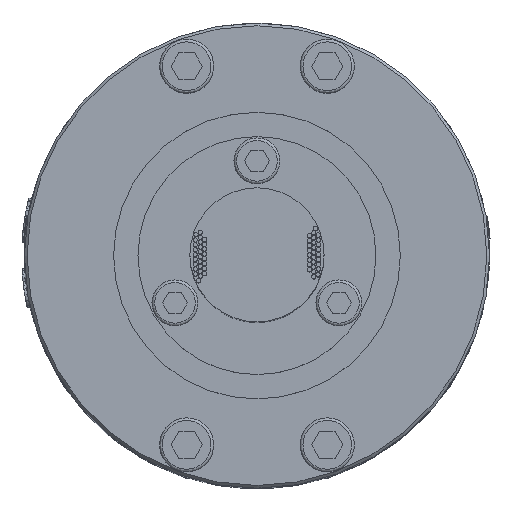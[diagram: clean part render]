
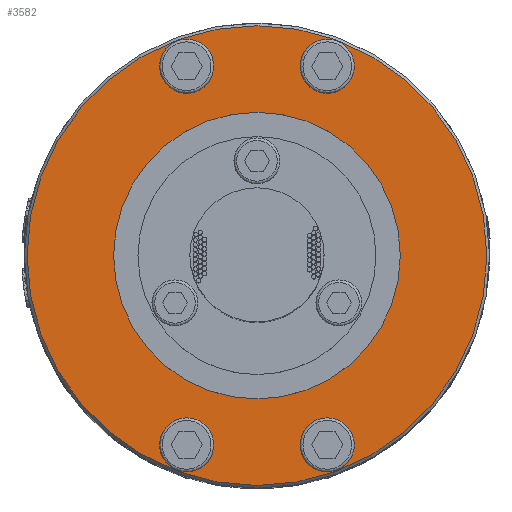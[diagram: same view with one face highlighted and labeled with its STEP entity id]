
A CAD part, top view. The second image highlights one B-rep face of the part: STEP entity #3582.
In plain terms, the highlighted planar face has unit normal (0, 0, 1).
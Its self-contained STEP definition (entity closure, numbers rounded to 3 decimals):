
#700=FACE_BOUND('',#7281,.T.);
#701=FACE_BOUND('',#7282,.T.);
#702=FACE_BOUND('',#7283,.T.);
#703=FACE_BOUND('',#7284,.T.);
#704=FACE_BOUND('',#7285,.T.);
#705=FACE_BOUND('',#7286,.T.);
#1222=CIRCLE('',#27761,5.);
#1223=CIRCLE('',#27762,5.);
#1224=CIRCLE('',#27763,5.);
#1225=CIRCLE('',#27764,5.);
#1226=CIRCLE('',#27765,26.5);
#1227=CIRCLE('',#27766,42.5);
#3582=ADVANCED_FACE('',(#700,#701,#702,#703,#704,#705),#4252,.T.);
#4252=PLANE('',#27767);
#7281=EDGE_LOOP('',(#16349));
#7282=EDGE_LOOP('',(#16350));
#7283=EDGE_LOOP('',(#16351));
#7284=EDGE_LOOP('',(#16352));
#7285=EDGE_LOOP('',(#16353));
#7286=EDGE_LOOP('',(#16354));
#16349=ORIENTED_EDGE('',*,*,#23098,.F.);
#16350=ORIENTED_EDGE('',*,*,#23099,.F.);
#16351=ORIENTED_EDGE('',*,*,#23100,.F.);
#16352=ORIENTED_EDGE('',*,*,#23101,.F.);
#16353=ORIENTED_EDGE('',*,*,#23102,.T.);
#16354=ORIENTED_EDGE('',*,*,#23103,.T.);
#19385=VERTEX_POINT('',#54978);
#19386=VERTEX_POINT('',#54980);
#19387=VERTEX_POINT('',#54982);
#19388=VERTEX_POINT('',#54984);
#19389=VERTEX_POINT('',#54986);
#19390=VERTEX_POINT('',#54988);
#23098=EDGE_CURVE('',#19385,#19385,#1222,.T.);
#23099=EDGE_CURVE('',#19386,#19386,#1223,.T.);
#23100=EDGE_CURVE('',#19387,#19387,#1224,.T.);
#23101=EDGE_CURVE('',#19388,#19388,#1225,.T.);
#23102=EDGE_CURVE('',#19389,#19389,#1226,.T.);
#23103=EDGE_CURVE('',#19390,#19390,#1227,.T.);
#27761=AXIS2_PLACEMENT_3D('',#54977,#31068,#31069);
#27762=AXIS2_PLACEMENT_3D('',#54979,#31070,#31071);
#27763=AXIS2_PLACEMENT_3D('',#54981,#31072,#31073);
#27764=AXIS2_PLACEMENT_3D('',#54983,#31074,#31075);
#27765=AXIS2_PLACEMENT_3D('',#54985,#31076,#31077);
#27766=AXIS2_PLACEMENT_3D('',#54987,#31078,#31079);
#27767=AXIS2_PLACEMENT_3D('',#54989,#31080,#31081);
#31068=DIRECTION('',(0.,0.,1.));
#31069=DIRECTION('',(-1.,0.,0.));
#31070=DIRECTION('',(0.,0.,1.));
#31071=DIRECTION('',(-1.,0.,0.));
#31072=DIRECTION('',(0.,0.,1.));
#31073=DIRECTION('',(-1.,0.,0.));
#31074=DIRECTION('',(0.,0.,1.));
#31075=DIRECTION('',(-1.,0.,0.));
#31076=DIRECTION('',(0.,0.,-1.));
#31077=DIRECTION('',(1.,0.,0.));
#31078=DIRECTION('',(0.,0.,1.));
#31079=DIRECTION('',(1.,0.,0.));
#31080=DIRECTION('',(0.,0.,1.));
#31081=DIRECTION('',(1.,0.,0.));
#54977=CARTESIAN_POINT('',(13.,35.,111.));
#54978=CARTESIAN_POINT('',(8.,35.,111.));
#54979=CARTESIAN_POINT('',(-13.,35.,111.));
#54980=CARTESIAN_POINT('',(-18.,35.,111.));
#54981=CARTESIAN_POINT('',(-13.,-35.,111.));
#54982=CARTESIAN_POINT('',(-18.,-35.,111.));
#54983=CARTESIAN_POINT('',(13.,-35.,111.));
#54984=CARTESIAN_POINT('',(8.,-35.,111.));
#54985=CARTESIAN_POINT('',(0.,0.,111.));
#54986=CARTESIAN_POINT('',(26.5,0.,111.));
#54987=CARTESIAN_POINT('',(0.,0.,111.));
#54988=CARTESIAN_POINT('',(42.5,0.,111.));
#54989=CARTESIAN_POINT('',(0.,0.,111.));
